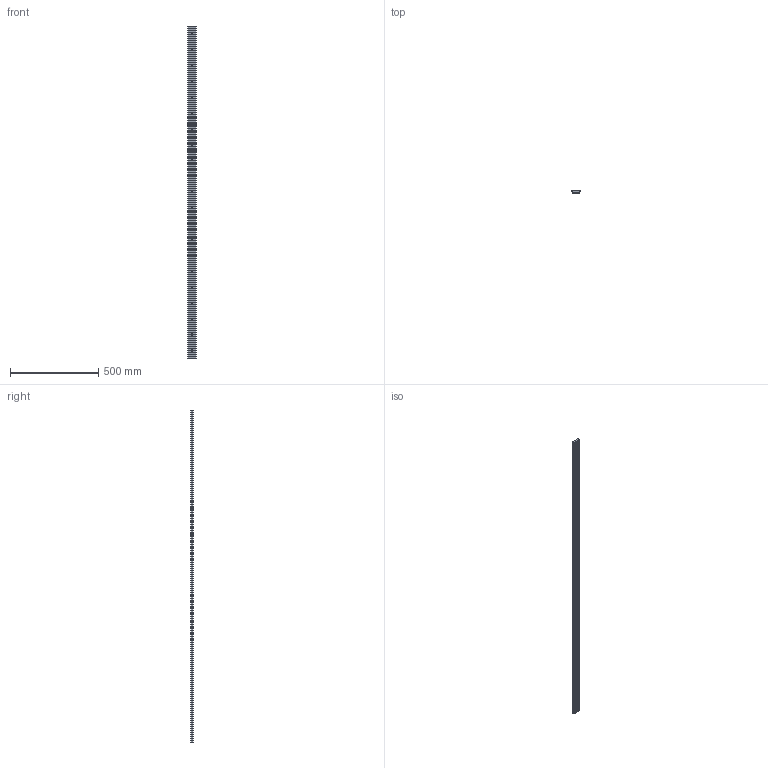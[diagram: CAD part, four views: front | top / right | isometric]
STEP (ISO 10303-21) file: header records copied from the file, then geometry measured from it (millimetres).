
FILE_DESCRIPTION(('STEP AP203'),'1');
FILE_NAME('slide_ns50l1886p3.stp','2022-07-01T04:38:01',('TraceParts'),('TraceParts S.A.'),'Spatial InterOp 3D',' ',' ');
FILE_SCHEMA(('CONFIG_CONTROL_DESIGN'));
Length unit declared in the file: millimetre
Products named in the file (1): 1
Bounding box: 50.25 x 12.66 x 1886 mm (x, y, z)
Volume: 865280.9 mm3; surface area: 257775.1 mm2
Topology: 1 solids, 1 shells, 151 faces, 384 edges, 256 vertices
Faces by surface type: cylinder 104, plane 47
Entity records: 4794 total; most frequent: DIRECTION 896, CARTESIAN_POINT 792, ORIENTED_EDGE 768, EDGE_CURVE 384, AXIS2_PLACEMENT_3D 360, VERTEX_POINT 256, EDGE_LOOP 214, CIRCLE 208
